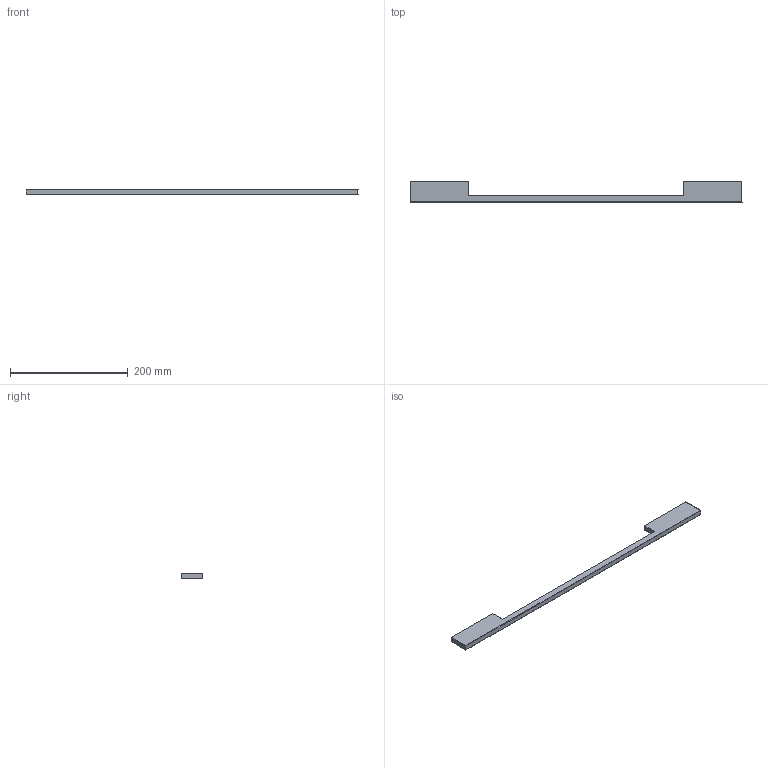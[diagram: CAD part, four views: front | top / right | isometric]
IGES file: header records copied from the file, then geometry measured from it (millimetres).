
Start section: Data from Parasolid IGES Translator 15.0.47, Copyright(c) 2006 Siemens P LM Software. All Rights Reserved.
Global section: file name: 9995589.igs; native system:  By UGS Corp.; preprocessor: XPlus GENERIC/IGES 3.0; author: Noname; organization: Noname; date: 20140122.183132; units: millimetre
Bounding box: 565.01 x 35.01 x 9.01 mm (x, y, z)
Surface area: 33314.7 mm2 (no closed solid volume)
Topology: 0 solids, 0 shells, 24 faces, 112 edges, 110 vertices
Faces by surface type: revolution 13, extrusion 11
